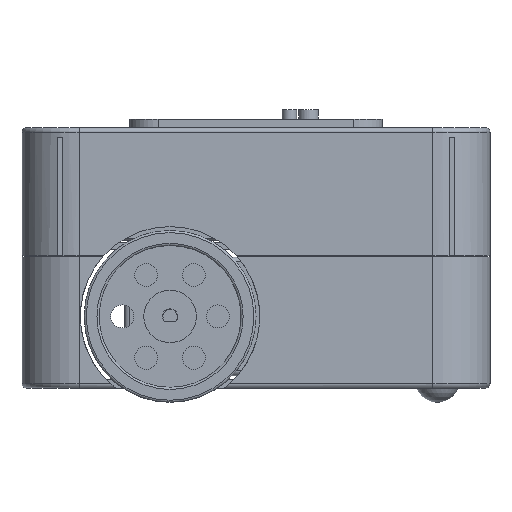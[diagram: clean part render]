
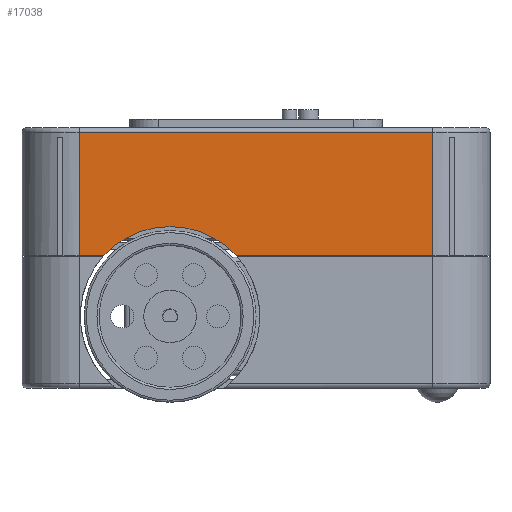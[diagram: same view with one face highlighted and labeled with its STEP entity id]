
A CAD part, left-side view. The second image highlights one B-rep face of the part: STEP entity #17038.
In plain terms, the highlighted planar face has unit normal (-1, 0, 0).
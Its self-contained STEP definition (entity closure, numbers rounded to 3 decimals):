
#17038 = ADVANCED_FACE('',(#17039),#17053,.T.);
#17039 = FACE_BOUND('',#17040,.T.);
#17040 = EDGE_LOOP('',(#17041,#17075,#17103,#17131,#17159,#17186));
#17041 = ORIENTED_EDGE('',*,*,#17042,.F.);
#17042 = EDGE_CURVE('',#17043,#17045,#17047,.T.);
#17043 = VERTEX_POINT('',#17044);
#17044 = CARTESIAN_POINT('',(-24.5,-37.,30.7));
#17045 = VERTEX_POINT('',#17046);
#17046 = CARTESIAN_POINT('',(-24.5,4.138,30.7));
#17047 = SURFACE_CURVE('',#17048,(#17052,#17063),.PCURVE_S1.);
#17048 = LINE('',#17049,#17050);
#17049 = CARTESIAN_POINT('',(-24.5,-48.5,30.7));
#17050 = VECTOR('',#17051,1.);
#17051 = DIRECTION('',(0.,1.,-0.));
#17052 = PCURVE('',#17053,#17058);
#17053 = PLANE('',#17054);
#17054 = AXIS2_PLACEMENT_3D('',#17055,#17056,#17057);
#17055 = CARTESIAN_POINT('',(-24.5,-37.,3.));
#17056 = DIRECTION('',(-1.,0.,0.));
#17057 = DIRECTION('',(0.,1.,0.));
#17058 = DEFINITIONAL_REPRESENTATION('',(#17059),#17062);
#17059 = B_SPLINE_CURVE_WITH_KNOTS('',1,(#17060,#17061),.UNSPECIFIED.,
  .F.,.F.,(2,2),(11.5,85.5),.PIECEWISE_BEZIER_KNOTS.);
#17060 = CARTESIAN_POINT('',(0.,-27.7));
#17061 = CARTESIAN_POINT('',(74.,-27.7));
#17062 = ( GEOMETRIC_REPRESENTATION_CONTEXT(2) 
PARAMETRIC_REPRESENTATION_CONTEXT() REPRESENTATION_CONTEXT('2D SPACE',''
  ) );
#17063 = PCURVE('',#17064,#17069);
#17064 = PLANE('',#17065);
#17065 = AXIS2_PLACEMENT_3D('',#17066,#17067,#17068);
#17066 = CARTESIAN_POINT('',(-60.,-60.,30.7));
#17067 = DIRECTION('',(0.,0.,1.));
#17068 = DIRECTION('',(1.,0.,-0.));
#17069 = DEFINITIONAL_REPRESENTATION('',(#17070),#17074);
#17070 = LINE('',#17071,#17072);
#17071 = CARTESIAN_POINT('',(35.5,11.5));
#17072 = VECTOR('',#17073,1.);
#17073 = DIRECTION('',(0.,1.));
#17074 = ( GEOMETRIC_REPRESENTATION_CONTEXT(2) 
PARAMETRIC_REPRESENTATION_CONTEXT() REPRESENTATION_CONTEXT('2D SPACE',''
  ) );
#17075 = ORIENTED_EDGE('',*,*,#17076,.T.);
#17076 = EDGE_CURVE('',#17043,#17077,#17079,.T.);
#17077 = VERTEX_POINT('',#17078);
#17078 = CARTESIAN_POINT('',(-24.5,-37.,56.6));
#17079 = SURFACE_CURVE('',#17080,(#17084,#17091),.PCURVE_S1.);
#17080 = LINE('',#17081,#17082);
#17081 = CARTESIAN_POINT('',(-24.5,-37.,3.));
#17082 = VECTOR('',#17083,1.);
#17083 = DIRECTION('',(0.,0.,1.));
#17084 = PCURVE('',#17053,#17085);
#17085 = DEFINITIONAL_REPRESENTATION('',(#17086),#17090);
#17086 = LINE('',#17087,#17088);
#17087 = CARTESIAN_POINT('',(0.,0.));
#17088 = VECTOR('',#17089,1.);
#17089 = DIRECTION('',(0.,-1.));
#17090 = ( GEOMETRIC_REPRESENTATION_CONTEXT(2) 
PARAMETRIC_REPRESENTATION_CONTEXT() REPRESENTATION_CONTEXT('2D SPACE',''
  ) );
#17091 = PCURVE('',#17092,#17097);
#17092 = CYLINDRICAL_SURFACE('',#17093,12.);
#17093 = AXIS2_PLACEMENT_3D('',#17094,#17095,#17096);
#17094 = CARTESIAN_POINT('',(-12.5,-37.,3.));
#17095 = DIRECTION('',(-0.,-0.,-1.));
#17096 = DIRECTION('',(1.,0.,0.));
#17097 = DEFINITIONAL_REPRESENTATION('',(#17098),#17102);
#17098 = LINE('',#17099,#17100);
#17099 = CARTESIAN_POINT('',(-3.142,0.));
#17100 = VECTOR('',#17101,1.);
#17101 = DIRECTION('',(-0.,-1.));
#17102 = ( GEOMETRIC_REPRESENTATION_CONTEXT(2) 
PARAMETRIC_REPRESENTATION_CONTEXT() REPRESENTATION_CONTEXT('2D SPACE',''
  ) );
#17103 = ORIENTED_EDGE('',*,*,#17104,.T.);
#17104 = EDGE_CURVE('',#17077,#17105,#17107,.T.);
#17105 = VERTEX_POINT('',#17106);
#17106 = CARTESIAN_POINT('',(-24.5,37.,56.6));
#17107 = SURFACE_CURVE('',#17108,(#17112,#17119),.PCURVE_S1.);
#17108 = LINE('',#17109,#17110);
#17109 = CARTESIAN_POINT('',(-24.5,-37.,56.6));
#17110 = VECTOR('',#17111,1.);
#17111 = DIRECTION('',(0.,1.,0.));
#17112 = PCURVE('',#17053,#17113);
#17113 = DEFINITIONAL_REPRESENTATION('',(#17114),#17118);
#17114 = LINE('',#17115,#17116);
#17115 = CARTESIAN_POINT('',(0.,-53.6));
#17116 = VECTOR('',#17117,1.);
#17117 = DIRECTION('',(1.,0.));
#17118 = ( GEOMETRIC_REPRESENTATION_CONTEXT(2) 
PARAMETRIC_REPRESENTATION_CONTEXT() REPRESENTATION_CONTEXT('2D SPACE',''
  ) );
#17119 = PCURVE('',#17120,#17125);
#17120 = CYLINDRICAL_SURFACE('',#17121,0.9);
#17121 = AXIS2_PLACEMENT_3D('',#17122,#17123,#17124);
#17122 = CARTESIAN_POINT('',(-23.6,-37.,56.6));
#17123 = DIRECTION('',(0.,1.,0.));
#17124 = DIRECTION('',(-1.,0.,0.));
#17125 = DEFINITIONAL_REPRESENTATION('',(#17126),#17130);
#17126 = LINE('',#17127,#17128);
#17127 = CARTESIAN_POINT('',(0.,0.));
#17128 = VECTOR('',#17129,1.);
#17129 = DIRECTION('',(0.,1.));
#17130 = ( GEOMETRIC_REPRESENTATION_CONTEXT(2) 
PARAMETRIC_REPRESENTATION_CONTEXT() REPRESENTATION_CONTEXT('2D SPACE',''
  ) );
#17131 = ORIENTED_EDGE('',*,*,#17132,.F.);
#17132 = EDGE_CURVE('',#17133,#17105,#17135,.T.);
#17133 = VERTEX_POINT('',#17134);
#17134 = CARTESIAN_POINT('',(-24.5,37.,30.7));
#17135 = SURFACE_CURVE('',#17136,(#17140,#17147),.PCURVE_S1.);
#17136 = LINE('',#17137,#17138);
#17137 = CARTESIAN_POINT('',(-24.5,37.,3.));
#17138 = VECTOR('',#17139,1.);
#17139 = DIRECTION('',(0.,0.,1.));
#17140 = PCURVE('',#17053,#17141);
#17141 = DEFINITIONAL_REPRESENTATION('',(#17142),#17146);
#17142 = LINE('',#17143,#17144);
#17143 = CARTESIAN_POINT('',(74.,0.));
#17144 = VECTOR('',#17145,1.);
#17145 = DIRECTION('',(0.,-1.));
#17146 = ( GEOMETRIC_REPRESENTATION_CONTEXT(2) 
PARAMETRIC_REPRESENTATION_CONTEXT() REPRESENTATION_CONTEXT('2D SPACE',''
  ) );
#17147 = PCURVE('',#17148,#17153);
#17148 = CYLINDRICAL_SURFACE('',#17149,12.);
#17149 = AXIS2_PLACEMENT_3D('',#17150,#17151,#17152);
#17150 = CARTESIAN_POINT('',(-12.5,37.,3.));
#17151 = DIRECTION('',(-0.,-0.,-1.));
#17152 = DIRECTION('',(1.,0.,0.));
#17153 = DEFINITIONAL_REPRESENTATION('',(#17154),#17158);
#17154 = LINE('',#17155,#17156);
#17155 = CARTESIAN_POINT('',(-3.142,0.));
#17156 = VECTOR('',#17157,1.);
#17157 = DIRECTION('',(-0.,-1.));
#17158 = ( GEOMETRIC_REPRESENTATION_CONTEXT(2) 
PARAMETRIC_REPRESENTATION_CONTEXT() REPRESENTATION_CONTEXT('2D SPACE',''
  ) );
#17159 = ORIENTED_EDGE('',*,*,#17160,.F.);
#17160 = EDGE_CURVE('',#17161,#17133,#17163,.T.);
#17161 = VERTEX_POINT('',#17162);
#17162 = CARTESIAN_POINT('',(-24.5,31.862,30.7));
#17163 = SURFACE_CURVE('',#17164,(#17168,#17174),.PCURVE_S1.);
#17164 = LINE('',#17165,#17166);
#17165 = CARTESIAN_POINT('',(-24.5,-48.5,30.7));
#17166 = VECTOR('',#17167,1.);
#17167 = DIRECTION('',(0.,1.,-0.));
#17168 = PCURVE('',#17053,#17169);
#17169 = DEFINITIONAL_REPRESENTATION('',(#17170),#17173);
#17170 = B_SPLINE_CURVE_WITH_KNOTS('',1,(#17171,#17172),.UNSPECIFIED.,
  .F.,.F.,(2,2),(11.5,85.5),.PIECEWISE_BEZIER_KNOTS.);
#17171 = CARTESIAN_POINT('',(0.,-27.7));
#17172 = CARTESIAN_POINT('',(74.,-27.7));
#17173 = ( GEOMETRIC_REPRESENTATION_CONTEXT(2) 
PARAMETRIC_REPRESENTATION_CONTEXT() REPRESENTATION_CONTEXT('2D SPACE',''
  ) );
#17174 = PCURVE('',#17175,#17180);
#17175 = PLANE('',#17176);
#17176 = AXIS2_PLACEMENT_3D('',#17177,#17178,#17179);
#17177 = CARTESIAN_POINT('',(-60.,-60.,30.7));
#17178 = DIRECTION('',(0.,0.,1.));
#17179 = DIRECTION('',(1.,0.,-0.));
#17180 = DEFINITIONAL_REPRESENTATION('',(#17181),#17185);
#17181 = LINE('',#17182,#17183);
#17182 = CARTESIAN_POINT('',(35.5,11.5));
#17183 = VECTOR('',#17184,1.);
#17184 = DIRECTION('',(0.,1.));
#17185 = ( GEOMETRIC_REPRESENTATION_CONTEXT(2) 
PARAMETRIC_REPRESENTATION_CONTEXT() REPRESENTATION_CONTEXT('2D SPACE',''
  ) );
#17186 = ORIENTED_EDGE('',*,*,#17187,.T.);
#17187 = EDGE_CURVE('',#17161,#17045,#17188,.T.);
#17188 = SURFACE_CURVE('',#17189,(#17194,#17205),.PCURVE_S1.);
#17189 = CIRCLE('',#17190,18.8);
#17190 = AXIS2_PLACEMENT_3D('',#17191,#17192,#17193);
#17191 = CARTESIAN_POINT('',(-24.5,18.,18.));
#17192 = DIRECTION('',(1.,0.,0.));
#17193 = DIRECTION('',(0.,0.,-1.));
#17194 = PCURVE('',#17053,#17195);
#17195 = DEFINITIONAL_REPRESENTATION('',(#17196),#17204);
#17196 = ( BOUNDED_CURVE() B_SPLINE_CURVE(2,(#17197,#17198,#17199,#17200
    ,#17201,#17202,#17203),.UNSPECIFIED.,.T.,.F.) 
B_SPLINE_CURVE_WITH_KNOTS((1,2,2,2,2,1),(-2.094,0.,
    2.094,4.189,6.283,8.378),
.UNSPECIFIED.) CURVE() GEOMETRIC_REPRESENTATION_ITEM() 
RATIONAL_B_SPLINE_CURVE((1.,0.5,1.,0.5,1.,0.5,1.)) REPRESENTATION_ITEM(
  '') );
#17197 = CARTESIAN_POINT('',(55.,3.8));
#17198 = CARTESIAN_POINT('',(87.563,3.8));
#17199 = CARTESIAN_POINT('',(71.281,-24.4));
#17200 = CARTESIAN_POINT('',(55.,-52.6));
#17201 = CARTESIAN_POINT('',(38.719,-24.4));
#17202 = CARTESIAN_POINT('',(22.437,3.8));
#17203 = CARTESIAN_POINT('',(55.,3.8));
#17204 = ( GEOMETRIC_REPRESENTATION_CONTEXT(2) 
PARAMETRIC_REPRESENTATION_CONTEXT() REPRESENTATION_CONTEXT('2D SPACE',''
  ) );
#17205 = PCURVE('',#17206,#17211);
#17206 = CYLINDRICAL_SURFACE('',#17207,18.8);
#17207 = AXIS2_PLACEMENT_3D('',#17208,#17209,#17210);
#17208 = CARTESIAN_POINT('',(-26.7,18.,18.));
#17209 = DIRECTION('',(1.,0.,0.));
#17210 = DIRECTION('',(0.,0.,-1.));
#17211 = DEFINITIONAL_REPRESENTATION('',(#17212),#17216);
#17212 = LINE('',#17213,#17214);
#17213 = CARTESIAN_POINT('',(0.,2.2));
#17214 = VECTOR('',#17215,1.);
#17215 = DIRECTION('',(1.,0.));
#17216 = ( GEOMETRIC_REPRESENTATION_CONTEXT(2) 
PARAMETRIC_REPRESENTATION_CONTEXT() REPRESENTATION_CONTEXT('2D SPACE',''
  ) );
